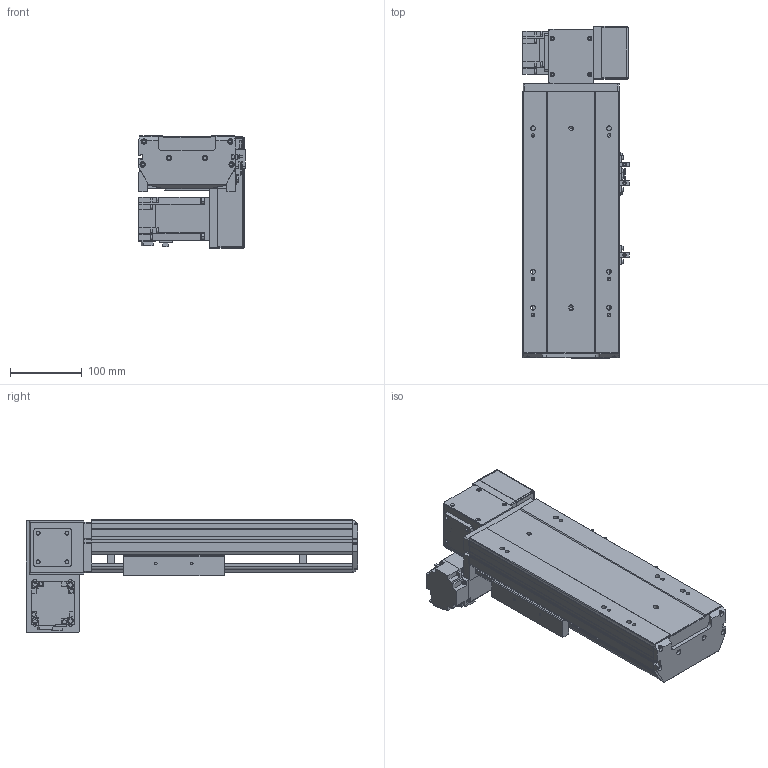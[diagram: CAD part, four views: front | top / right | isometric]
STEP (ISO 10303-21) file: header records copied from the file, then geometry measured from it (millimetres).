
FILE_DESCRIPTION (( 'STEP AP203' ), '1' );
FILE_NAME ('10.STEP', '2022-07-22T00:59:56', ( '' ), ( '' ), 'SwSTEP 2.0', 'SolidWorks 2016', '' );
FILE_SCHEMA (( 'CONFIG_CONTROL_DESIGN' ));
Length unit declared in the file: millimetre
Products named in the file (10): BTB14-L-06; BTB14-L-菁釱_XD; BTB14-L-M40; 10; BTB14-L-HZ; BTB14-L-24; BTB14-L-01; BTB14-L-04; BTB14-L-02; BTB14-L-23
Assembly tree (12 placements, depth 2):
  10
    BTB14-L-菁釱_XD
    BTB14-L-01
    BTB14-L-02
    BTB14-L-04  x3
    BTB14-L-06
    BTB14-L-23  x2
    BTB14-L-24
    BTB14-L-HZ
    BTB14-L-M40
Bounding box: 148.7 x 462.5 x 156.7 mm (x, y, z)
Volume: 2649257.5 mm3; surface area: 605993.7 mm2
Topology: 22 solids, 22 shells, 1570 faces, 4149 edges, 2656 vertices
Faces by surface type: plane 937, cylinder 432, cone 112, bspline 77, torus 12
Entity records: 41486 total; most frequent: CARTESIAN_POINT 10367, ORIENTED_EDGE 6244, DIRECTION 6148, EDGE_CURVE 3122, VECTOR 2158, LINE 2158, VERTEX_POINT 2034, AXIS2_PLACEMENT_3D 1995
